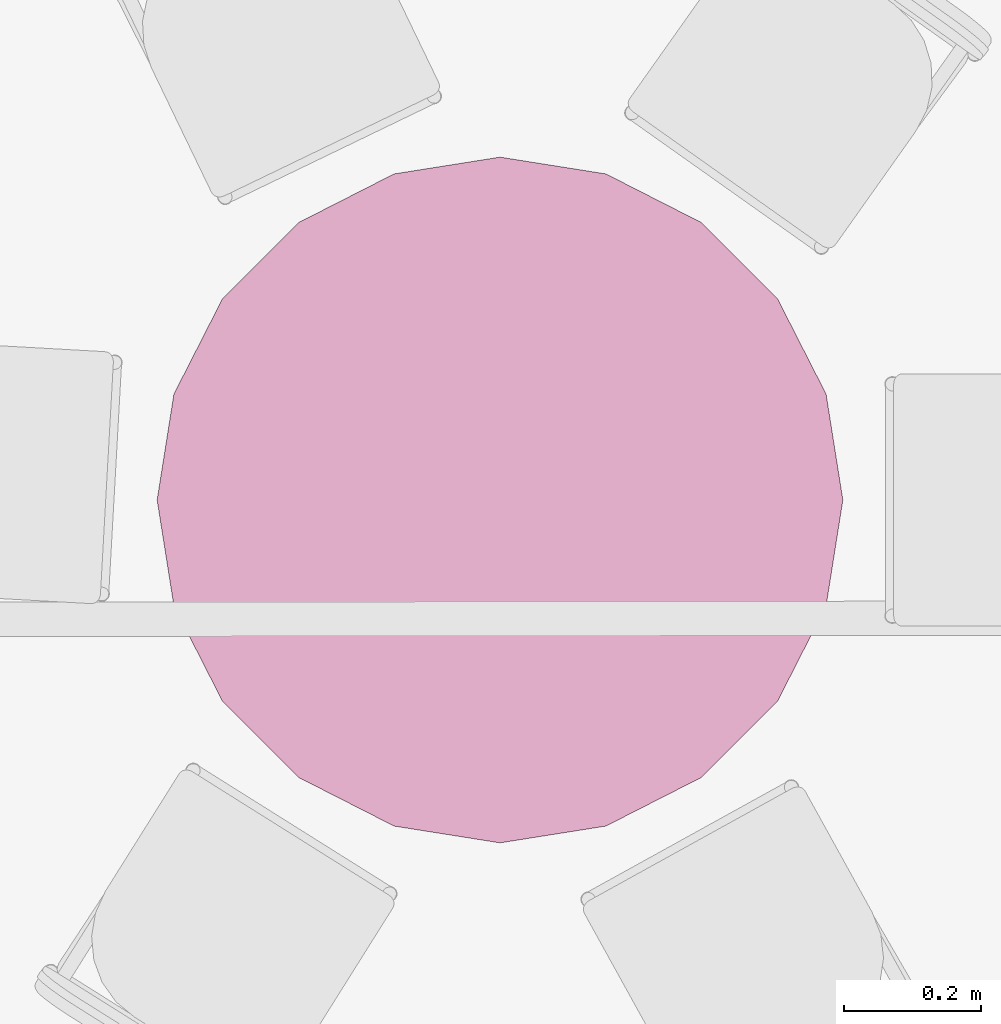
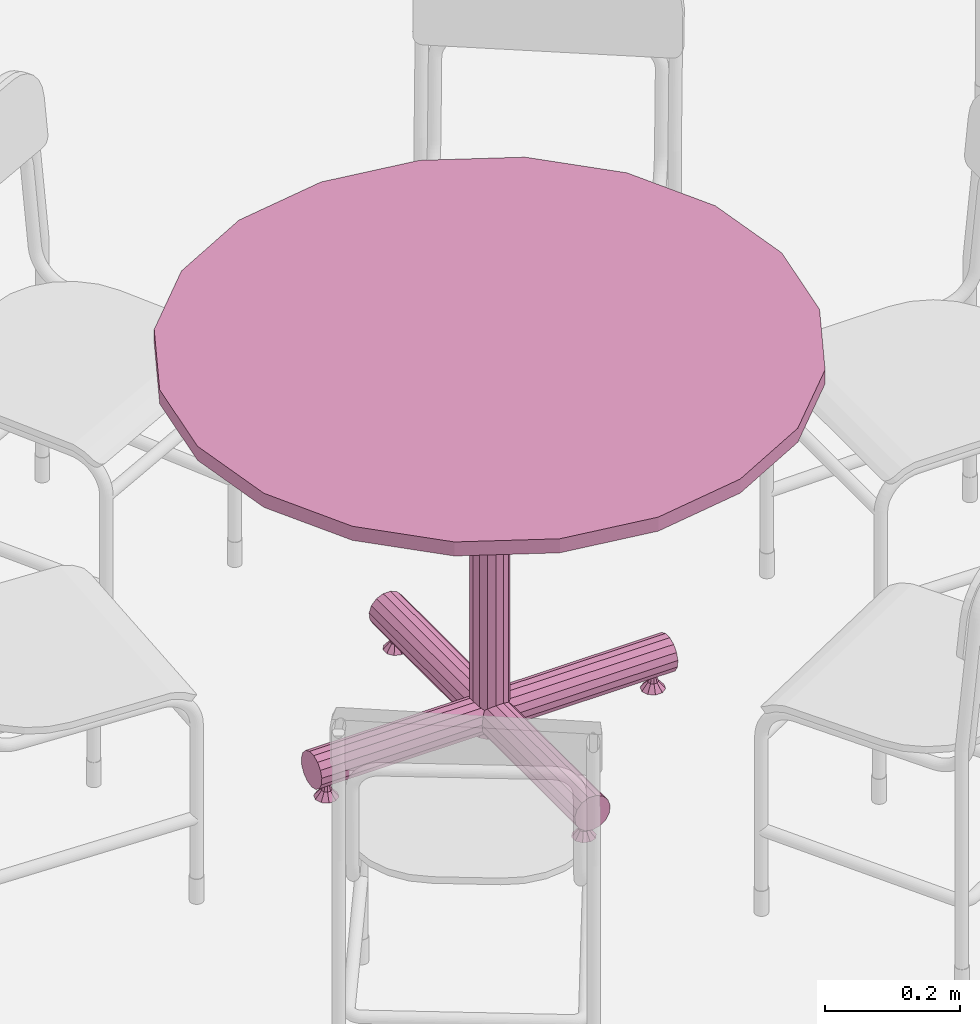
# One storey, part 273 of 301: 1 furnishing.
"""IFC2X3 building model written with IfcOpenShell, lengths in millimetres."""

from ifc_helpers import new_model, entity, si_unit, converted_unit, derived_unit, money_unit, direction, frame, origin_with_axes, place, context, subcontext, project, spatial, open_shell, faceted_brep, surface_model, source, transform, mapped, type_object, element, save


model = new_model("IFC2X3")

# Units and contexts
model_context = context("Model", 3, precision=0.01, world=origin_with_axes(), true_north=direction((0.0, 1.0)))
body_context = subcontext(model_context, "Body", "Model", "MODEL_VIEW")
ifc_project = project(units=[si_unit("LENGTHUNIT", "METRE", prefix="MILLI"), si_unit("AREAUNIT", "SQUARE_METRE"), si_unit("VOLUMEUNIT", "CUBIC_METRE"), converted_unit("PLANEANGLEUNIT", "DEGREE", entity("IfcPlaneAngleMeasure", 0.0174532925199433), si_unit("PLANEANGLEUNIT", "RADIAN"), dimensions=[0, 0, 0, 0, 0, 0, 0]), money_unit("EUR"), converted_unit("TIMEUNIT", "Year", entity("IfcTimeMeasure", 31557600.0), si_unit("TIMEUNIT", "SECOND"), dimensions=[0, 0, 1, 0, 0, 0, 0]), si_unit("MASSUNIT", "GRAM", prefix="KILO"), si_unit("THERMODYNAMICTEMPERATUREUNIT", "DEGREE_CELSIUS"), si_unit("LUMINOUSINTENSITYUNIT", "LUMEN"), si_unit("ENERGYUNIT", "JOULE", prefix="MEGA"), derived_unit("THERMALCONDUCTANCEUNIT", [(si_unit("POWERUNIT", "WATT"), 1), (si_unit("LENGTHUNIT", "METRE"), -1), (si_unit("THERMODYNAMICTEMPERATUREUNIT", "KELVIN"), -1)]), derived_unit("SPECIFICHEATCAPACITYUNIT", [(si_unit("ENERGYUNIT", "JOULE"), 1), (si_unit("MASSUNIT", "GRAM", prefix="KILO"), -1), (si_unit("THERMODYNAMICTEMPERATUREUNIT", "KELVIN"), -1)]), derived_unit("MASSDENSITYUNIT", [(si_unit("MASSUNIT", "GRAM", prefix="KILO"), 1), (si_unit("VOLUMEUNIT", "CUBIC_METRE"), -1)])], contexts=[model_context])

# Site, building, storey
site_placement = place(None, frame((0.0, 0.0, 8650.0), z_axis=(0.0, 0.0, 1.0), x_axis=(1.0, 0.0, 0.0)))
site = spatial("IfcSite", under=ifc_project, at=site_placement, Name="43301:001:0844", CompositionType="ELEMENT")
building_placement = place(site_placement, origin_with_axes())
building = spatial("IfcBuilding", under=site, at=building_placement, Name="Kuressaare Ametikooli tuulikute mehaanikute õppekorpus", CompositionType="ELEMENT")
storey_placement = place(building_placement, origin_with_axes())
storey = spatial("IfcBuildingStorey", under=building, at=storey_placement, Name="1.korrus", CompositionType="ELEMENT", Elevation=0.0)

# Furnishing
furniture_type = type_object("IfcFurnitureType", Name="Round Table 02 27", AssemblyPlace="NOTDEFINED")
shared_shape = source(origin_with_axes(), body_context, "Body", "SurfaceModel", [
    faceted_brep([(294.8117737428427, -11.19730905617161, 0.0), (298.45, 0.0, 0.0), (287.8666666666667, 0.0, 12.7), (286.2496772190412, -4.976581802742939, 12.7), (285.2867737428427, -18.11762663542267, 0.0), (273.5132262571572, -18.11762663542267, 0.0), (263.9882262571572, -11.19730905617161, 0.0), (260.35, 0.0, 0.0), (263.9882262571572, 11.19730905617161, 0.0), (273.5132262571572, 18.11762663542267, 0.0), (285.2867737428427, 18.11762663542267, 0.0), (294.8117737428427, 11.19730905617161, 0.0), (286.2496772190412, 4.976581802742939, 12.7), (282.0163438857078, 8.052278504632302, 12.7), (276.7836561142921, 8.052278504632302, 12.7), (272.5503227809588, 4.976581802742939, 12.7), (270.9333333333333, 0.0, 12.7), (272.5503227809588, -4.976581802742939, 12.7), (276.7836561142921, -8.052278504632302, 12.7), (282.0163438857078, -8.052278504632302, 12.7)], [[[0, 1, 2, 3]], [[0, 4, 5, 6, 7, 8, 9, 10, 11, 1]], [[1, 11, 12, 2]], [[3, 2, 12, 13, 14, 15, 16, 17, 18, 19]], [[4, 0, 3, 19]], [[5, 4, 19, 18]], [[6, 5, 18, 17]], [[7, 6, 17, 16]], [[8, 7, 16, 15]], [[9, 8, 15, 14]], [[10, 9, 14, 13]], [[11, 10, 13, 12]]]),
    faceted_brep([(286.2496772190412, -4.976581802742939, 12.7), (287.8666666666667, 0.0, 12.7), (284.48, 0.0, 25.4), (283.5098063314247, -2.985949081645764, 25.4), (282.0163438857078, -8.052278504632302, 12.7), (276.7836561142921, -8.052278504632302, 12.7), (272.5503227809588, -4.976581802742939, 12.7), (270.9333333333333, 0.0, 12.7), (272.5503227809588, 4.976581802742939, 12.7), (276.7836561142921, 8.052278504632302, 12.7), (282.0163438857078, 8.052278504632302, 12.7), (286.2496772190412, 4.976581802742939, 12.7), (283.5098063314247, 2.985949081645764, 25.4), (280.9698063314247, 4.831367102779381, 25.4), (277.8301936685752, 4.831367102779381, 25.4), (275.2901936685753, 2.985949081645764, 25.4), (274.32, 0.0, 25.4), (275.2901936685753, -2.985949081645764, 25.4), (277.8301936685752, -4.831367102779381, 25.4), (280.9698063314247, -4.831367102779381, 25.4)], [[[0, 1, 2, 3]], [[0, 4, 5, 6, 7, 8, 9, 10, 11, 1]], [[1, 11, 12, 2]], [[3, 2, 12, 13, 14, 15, 16, 17, 18, 19]], [[4, 0, 3, 19]], [[5, 4, 19, 18]], [[6, 5, 18, 17]], [[7, 6, 17, 16]], [[8, 7, 16, 15]], [[9, 8, 15, 14]], [[10, 9, 14, 13]], [[11, 10, 13, 12]]]),
    faceted_brep([(11.19730905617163, 294.8117737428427, 0.0), (0.0, 298.45, 0.0), (0.0, 287.8666666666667, 12.7), (4.976581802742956, 286.2496772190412, 12.7), (18.11762663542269, 285.2867737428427, 0.0), (18.11762663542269, 273.5132262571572, 0.0), (11.19730905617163, 263.9882262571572, 0.0), (0.0, 260.35, 0.0), (-11.1973090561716, 263.9882262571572, 0.0), (-18.11762663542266, 273.5132262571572, 0.0), (-18.11762663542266, 285.2867737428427, 0.0), (-11.19730905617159, 294.8117737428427, 0.0), (-4.976581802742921, 286.2496772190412, 12.7), (-8.052278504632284, 282.0163438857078, 12.7), (-8.052278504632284, 276.7836561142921, 12.7), (-4.976581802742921, 272.5503227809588, 12.7), (0.0, 270.9333333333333, 12.7), (4.976581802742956, 272.5503227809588, 12.7), (8.052278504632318, 276.7836561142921, 12.7), (8.052278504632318, 282.0163438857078, 12.7)], [[[0, 1, 2, 3]], [[0, 4, 5, 6, 7, 8, 9, 10, 11, 1]], [[1, 11, 12, 2]], [[3, 2, 12, 13, 14, 15, 16, 17, 18, 19]], [[4, 0, 3, 19]], [[5, 4, 19, 18]], [[6, 5, 18, 17]], [[7, 6, 17, 16]], [[8, 7, 16, 15]], [[9, 8, 15, 14]], [[10, 9, 14, 13]], [[11, 10, 13, 12]]]),
    faceted_brep([(4.976581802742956, 286.2496772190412, 12.7), (0.0, 287.8666666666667, 12.7), (0.0, 284.48, 25.4), (2.985949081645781, 283.5098063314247, 25.4), (8.052278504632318, 282.0163438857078, 12.7), (8.052278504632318, 276.7836561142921, 12.7), (4.976581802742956, 272.5503227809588, 12.7), (0.0, 270.9333333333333, 12.7), (-4.976581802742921, 272.5503227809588, 12.7), (-8.052278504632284, 276.7836561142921, 12.7), (-8.052278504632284, 282.0163438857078, 12.7), (-4.976581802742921, 286.2496772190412, 12.7), (-2.985949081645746, 283.5098063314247, 25.4), (-4.831367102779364, 280.9698063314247, 25.4), (-4.831367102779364, 277.8301936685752, 25.4), (-2.985949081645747, 275.2901936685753, 25.4), (0.0, 274.32, 25.4), (2.98594908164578, 275.2901936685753, 25.4), (4.831367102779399, 277.8301936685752, 25.4), (4.831367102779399, 280.9698063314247, 25.4)], [[[0, 1, 2, 3]], [[0, 4, 5, 6, 7, 8, 9, 10, 11, 1]], [[1, 11, 12, 2]], [[3, 2, 12, 13, 14, 15, 16, 17, 18, 19]], [[4, 0, 3, 19]], [[5, 4, 19, 18]], [[6, 5, 18, 17]], [[7, 6, 17, 16]], [[8, 7, 16, 15]], [[9, 8, 15, 14]], [[10, 9, 14, 13]], [[11, 10, 13, 12]]]),
    faceted_brep([(-294.8117737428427, 11.19730905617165, 0.0), (-298.45, 0.0, 0.0), (-287.8666666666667, 0.0, 12.7), (-286.2496772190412, 4.976581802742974, 12.7), (-285.2867737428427, 18.11762663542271, 0.0), (-273.5132262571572, 18.11762663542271, 0.0), (-263.9882262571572, 11.19730905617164, 0.0), (-260.35, 0.0, 0.0), (-263.9882262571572, -11.19730905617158, 0.0), (-273.5132262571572, -18.11762663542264, 0.0), (-285.2867737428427, -18.11762663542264, 0.0), (-294.8117737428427, -11.19730905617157, 0.0), (-286.2496772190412, -4.976581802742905, 12.7), (-282.0163438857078, -8.052278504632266, 12.7), (-276.7836561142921, -8.052278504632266, 12.7), (-272.5503227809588, -4.976581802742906, 12.7), (-270.9333333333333, 0.0, 12.7), (-272.5503227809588, 4.976581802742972, 12.7), (-276.7836561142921, 8.052278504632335, 12.7), (-282.0163438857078, 8.052278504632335, 12.7)], [[[0, 1, 2, 3]], [[0, 4, 5, 6, 7, 8, 9, 10, 11, 1]], [[1, 11, 12, 2]], [[3, 2, 12, 13, 14, 15, 16, 17, 18, 19]], [[4, 0, 3, 19]], [[5, 4, 19, 18]], [[6, 5, 18, 17]], [[7, 6, 17, 16]], [[8, 7, 16, 15]], [[9, 8, 15, 14]], [[10, 9, 14, 13]], [[11, 10, 13, 12]]]),
    faceted_brep([(-286.2496772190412, 4.976581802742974, 12.7), (-287.8666666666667, 0.0, 12.7), (-284.48, 0.0, 25.4), (-283.5098063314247, 2.985949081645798, 25.4), (-282.0163438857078, 8.052278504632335, 12.7), (-276.7836561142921, 8.052278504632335, 12.7), (-272.5503227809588, 4.976581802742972, 12.7), (-270.9333333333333, 0.0, 12.7), (-272.5503227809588, -4.976581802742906, 12.7), (-276.7836561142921, -8.052278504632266, 12.7), (-282.0163438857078, -8.052278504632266, 12.7), (-286.2496772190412, -4.976581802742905, 12.7), (-283.5098063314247, -2.985949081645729, 25.4), (-280.9698063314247, -4.831367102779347, 25.4), (-277.8301936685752, -4.831367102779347, 25.4), (-275.2901936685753, -2.98594908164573, 25.4), (-274.32, 0.0, 25.4), (-275.2901936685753, 2.985949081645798, 25.4), (-277.8301936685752, 4.831367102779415, 25.4), (-280.9698063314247, 4.831367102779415, 25.4)], [[[0, 1, 2, 3]], [[0, 4, 5, 6, 7, 8, 9, 10, 11, 1]], [[1, 11, 12, 2]], [[3, 2, 12, 13, 14, 15, 16, 17, 18, 19]], [[4, 0, 3, 19]], [[5, 4, 19, 18]], [[6, 5, 18, 17]], [[7, 6, 17, 16]], [[8, 7, 16, 15]], [[9, 8, 15, 14]], [[10, 9, 14, 13]], [[11, 10, 13, 12]]]),
    faceted_brep([(-11.19730905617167, -294.8117737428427, 0.0), (0.0, -298.45, 0.0), (0.0, -287.8666666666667, 12.7), (-4.976581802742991, -286.2496772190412, 12.7), (-18.11762663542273, -285.2867737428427, 0.0), (-18.11762663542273, -273.5132262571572, 0.0), (-11.19730905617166, -263.9882262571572, 0.0), (0.0, -260.35, 0.0), (11.19730905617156, -263.9882262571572, 0.0), (18.11762663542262, -273.5132262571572, 0.0), (18.11762663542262, -285.2867737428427, 0.0), (11.19730905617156, -294.8117737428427, 0.0), (4.976581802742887, -286.2496772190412, 12.7), (8.052278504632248, -282.0163438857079, 12.7), (8.052278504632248, -276.7836561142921, 12.7), (4.976581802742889, -272.5503227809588, 12.7), (0.0, -270.9333333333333, 12.7), (-4.976581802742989, -272.5503227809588, 12.7), (-8.052278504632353, -276.7836561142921, 12.7), (-8.052278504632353, -282.0163438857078, 12.7)], [[[0, 1, 2, 3]], [[0, 4, 5, 6, 7, 8, 9, 10, 11, 1]], [[1, 11, 12, 2]], [[3, 2, 12, 13, 14, 15, 16, 17, 18, 19]], [[4, 0, 3, 19]], [[5, 4, 19, 18]], [[6, 5, 18, 17]], [[7, 6, 17, 16]], [[8, 7, 16, 15]], [[9, 8, 15, 14]], [[10, 9, 14, 13]], [[11, 10, 13, 12]]]),
    faceted_brep([(-4.976581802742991, -286.2496772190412, 12.7), (0.0, -287.8666666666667, 12.7), (0.0, -284.48, 25.4), (-2.985949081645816, -283.5098063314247, 25.4), (-8.052278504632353, -282.0163438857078, 12.7), (-8.052278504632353, -276.7836561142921, 12.7), (-4.976581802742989, -272.5503227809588, 12.7), (0.0, -270.9333333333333, 12.7), (4.976581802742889, -272.5503227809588, 12.7), (8.052278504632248, -276.7836561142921, 12.7), (8.052278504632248, -282.0163438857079, 12.7), (4.976581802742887, -286.2496772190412, 12.7), (2.985949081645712, -283.5098063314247, 25.4), (4.83136710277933, -280.9698063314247, 25.4), (4.83136710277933, -277.8301936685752, 25.4), (2.985949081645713, -275.2901936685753, 25.4), (0.0, -274.32, 25.4), (-2.985949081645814, -275.2901936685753, 25.4), (-4.831367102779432, -277.8301936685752, 25.4), (-4.831367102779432, -280.9698063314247, 25.4)], [[[0, 1, 2, 3]], [[0, 4, 5, 6, 7, 8, 9, 10, 11, 1]], [[1, 11, 12, 2]], [[3, 2, 12, 13, 14, 15, 16, 17, 18, 19]], [[4, 0, 3, 19]], [[5, 4, 19, 18]], [[6, 5, 18, 17]], [[7, 6, 17, 16]], [[8, 7, 16, 15]], [[9, 8, 15, 14]], [[10, 9, 14, 13]], [[11, 10, 13, 12]]]),
    surface_model("IfcShellBasedSurfaceModel", [(27.84486554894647, -12.3973328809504, 28.03513445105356), (30.48, 0.0, 25.40000000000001), (304.8, 0.0, 25.40000000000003), (304.8, -12.3973328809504, 28.03513445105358), (27.84486554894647, 12.39733288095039, 28.03513445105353), (304.8, 12.39733288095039, 28.03513445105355), (304.8, 22.65105428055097, 35.48489911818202), (304.8, 28.98820261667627, 46.46116201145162), (304.8, 30.31302737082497, 59.06602756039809), (304.8, 26.39645430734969, 71.12), (304.8, 17.91569448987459, 80.5388379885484), (304.8, 6.337148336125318, 85.6939388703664), (304.8, -6.337148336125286, 85.6939388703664), (304.8, -17.91569448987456, 80.53883798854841), (304.8, -26.39645430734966, 71.12000000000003), (304.8, -30.31302737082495, 59.06602756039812), (304.8, -28.98820261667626, 46.46116201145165), (304.8, -22.65105428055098, 35.48489911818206), (21.34442362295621, -21.3444236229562, 34.53557637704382), (22.65105428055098, -22.65105428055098, 35.48489911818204), (21.34442362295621, 21.34442362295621, 34.5355763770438), (22.65105428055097, 22.65105428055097, 35.48489911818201), (28.98820261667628, 28.98820261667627, 46.4611620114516), (30.31302737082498, 30.31302737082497, 59.06602756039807), (26.39645430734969, 26.39645430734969, 71.11999999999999), (21.1105696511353, 21.1105696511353, 76.99056965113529), (24.65883798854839, 17.91569448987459, 80.53883798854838), (29.81393887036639, 6.337148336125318, 85.69393887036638), (29.8139388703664, -6.337148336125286, 85.69393887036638), (24.65883798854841, -17.91569448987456, 80.53883798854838), (21.1105696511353, -21.1105696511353, 76.99056965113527), (26.39645430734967, -26.39645430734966, 71.12), (30.31302737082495, -30.31302737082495, 59.0660275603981), (28.98820261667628, -28.98820261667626, 46.46116201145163)], [open_shell([[[0, 1, 2, 3]], [[1, 4, 5, 2]], [[3, 2, 5, 6, 7, 8, 9, 10, 11, 12, 13, 14, 15, 16, 17]], [[18, 0, 3, 17, 19]], [[4, 20, 21, 6, 5]], [[22, 7, 6, 21]], [[23, 8, 7, 22]], [[24, 9, 8, 23]], [[25, 26, 10, 9, 24]], [[26, 27, 11, 10]], [[27, 28, 12, 11]], [[28, 29, 13, 12]], [[29, 30, 31, 14, 13]], [[32, 15, 14, 31]], [[33, 16, 15, 32]], [[19, 17, 16, 33]]])]),
    surface_model("IfcShellBasedSurfaceModel", [(12.3973328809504, 27.84486554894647, 28.03513445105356), (0.0, 30.48, 25.40000000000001), (0.0, 304.8, 25.40000000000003), (12.39733288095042, 304.8, 28.03513445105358), (-12.39733288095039, 27.84486554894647, 28.03513445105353), (-12.39733288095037, 304.8, 28.03513445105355), (-22.65105428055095, 304.8, 35.48489911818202), (-28.98820261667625, 304.8, 46.46116201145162), (-30.31302737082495, 304.8, 59.06602756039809), (-26.39645430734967, 304.8, 71.12), (-17.91569448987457, 304.8, 80.5388379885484), (-6.337148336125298, 304.8, 85.6939388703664), (6.337148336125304, 304.8, 85.6939388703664), (17.91569448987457, 304.8, 80.53883798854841), (26.39645430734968, 304.8, 71.12000000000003), (30.31302737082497, 304.8, 59.06602756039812), (28.98820261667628, 304.8, 46.46116201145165), (22.65105428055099, 304.8, 35.48489911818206), (21.3444236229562, 21.34442362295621, 34.53557637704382), (22.65105428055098, 22.65105428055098, 35.48489911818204), (-21.34442362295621, 21.34442362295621, 34.5355763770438), (-22.65105428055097, 22.65105428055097, 35.48489911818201), (-28.98820261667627, 28.98820261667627, 46.4611620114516), (-30.31302737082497, 30.31302737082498, 59.06602756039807), (-26.39645430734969, 26.39645430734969, 71.11999999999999), (-21.1105696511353, 21.1105696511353, 76.99056965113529), (-17.91569448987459, 24.65883798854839, 80.53883798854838), (-6.337148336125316, 29.81393887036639, 85.69393887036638), (6.337148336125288, 29.8139388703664, 85.69393887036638), (17.91569448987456, 24.65883798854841, 80.53883798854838), (21.1105696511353, 21.1105696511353, 76.99056965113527), (26.39645430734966, 26.39645430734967, 71.12), (30.31302737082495, 30.31302737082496, 59.0660275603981), (28.98820261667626, 28.98820261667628, 46.46116201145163)], [open_shell([[[0, 1, 2, 3]], [[1, 4, 5, 2]], [[3, 2, 5, 6, 7, 8, 9, 10, 11, 12, 13, 14, 15, 16, 17]], [[18, 0, 3, 17, 19]], [[4, 20, 21, 6, 5]], [[22, 7, 6, 21]], [[23, 8, 7, 22]], [[24, 9, 8, 23]], [[25, 26, 10, 9, 24]], [[26, 27, 11, 10]], [[27, 28, 12, 11]], [[28, 29, 13, 12]], [[29, 30, 31, 14, 13]], [[32, 15, 14, 31]], [[33, 16, 15, 32]], [[19, 17, 16, 33]]])]),
    surface_model("IfcShellBasedSurfaceModel", [(-27.84486554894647, 12.39733288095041, 28.03513445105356), (-30.48, 0.0, 25.40000000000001), (-304.8, 0.0, 25.40000000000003), (-304.8, 12.39733288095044, 28.03513445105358), (-27.84486554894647, -12.39733288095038, 28.03513445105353), (-304.8, -12.39733288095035, 28.03513445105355), (-304.8, -22.65105428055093, 35.48489911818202), (-304.8, -28.98820261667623, 46.46116201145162), (-304.8, -30.31302737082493, 59.06602756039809), (-304.8, -26.39645430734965, 71.12), (-304.8, -17.91569448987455, 80.5388379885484), (-304.8, -6.337148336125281, 85.6939388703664), (-304.8, 6.337148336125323, 85.6939388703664), (-304.8, 17.9156944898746, 80.53883798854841), (-304.8, 26.3964543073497, 71.12000000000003), (-304.8, 30.31302737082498, 59.06602756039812), (-304.8, 28.9882026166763, 46.46116201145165), (-304.8, 22.65105428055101, 35.48489911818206), (-21.3444236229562, 21.34442362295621, 34.53557637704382), (-22.65105428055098, 22.65105428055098, 35.48489911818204), (-21.34442362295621, -21.3444236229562, 34.5355763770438), (-22.65105428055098, -22.65105428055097, 35.48489911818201), (-28.98820261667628, -28.98820261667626, 46.4611620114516), (-30.31302737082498, -30.31302737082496, 59.06602756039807), (-26.3964543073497, -26.39645430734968, 71.11999999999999), (-21.11056965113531, -21.11056965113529, 76.99056965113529), (-24.65883798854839, -17.91569448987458, 80.53883798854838), (-29.81393887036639, -6.337148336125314, 85.69393887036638), (-29.8139388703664, 6.337148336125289, 85.69393887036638), (-24.65883798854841, 17.91569448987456, 80.53883798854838), (-21.1105696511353, 21.1105696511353, 76.99056965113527), (-26.39645430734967, 26.39645430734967, 71.12), (-30.31302737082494, 30.31302737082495, 59.0660275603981), (-28.98820261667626, 28.98820261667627, 46.46116201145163)], [open_shell([[[0, 1, 2, 3]], [[1, 4, 5, 2]], [[3, 2, 5, 6, 7, 8, 9, 10, 11, 12, 13, 14, 15, 16, 17]], [[18, 0, 3, 17, 19]], [[4, 20, 21, 6, 5]], [[22, 7, 6, 21]], [[23, 8, 7, 22]], [[24, 9, 8, 23]], [[25, 26, 10, 9, 24]], [[26, 27, 11, 10]], [[27, 28, 12, 11]], [[28, 29, 13, 12]], [[29, 30, 31, 14, 13]], [[32, 15, 14, 31]], [[33, 16, 15, 32]], [[19, 17, 16, 33]]])]),
    surface_model("IfcShellBasedSurfaceModel", [(-12.39733288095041, -27.84486554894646, 28.03513445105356), (0.0, -30.48, 25.40000000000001), (0.0, -304.8, 25.40000000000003), (-12.39733288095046, -304.8, 28.03513445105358), (12.39733288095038, -27.84486554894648, 28.03513445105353), (12.39733288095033, -304.8, 28.03513445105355), (22.65105428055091, -304.8, 35.48489911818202), (28.98820261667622, -304.8, 46.46116201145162), (30.31302737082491, -304.8, 59.06602756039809), (26.39645430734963, -304.8, 71.12), (17.91569448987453, -304.8, 80.5388379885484), (6.337148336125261, -304.8, 85.6939388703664), (-6.337148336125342, -304.8, 85.6939388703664), (-17.91569448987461, -304.8, 80.53883798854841), (-26.39645430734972, -304.8, 71.12000000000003), (-30.313027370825, -304.8, 59.06602756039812), (-28.98820261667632, -304.8, 46.46116201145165), (-22.65105428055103, -304.8, 35.48489911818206), (-21.34442362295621, -21.3444236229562, 34.53557637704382), (-22.65105428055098, -22.65105428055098, 35.48489911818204), (21.3444236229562, -21.34442362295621, 34.5355763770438), (22.65105428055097, -22.65105428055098, 35.48489911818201), (28.98820261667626, -28.98820261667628, 46.4611620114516), (30.31302737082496, -30.31302737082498, 59.06602756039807), (26.39645430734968, -26.3964543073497, 71.11999999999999), (21.11056965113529, -21.11056965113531, 76.99056965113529), (17.91569448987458, -24.65883798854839, 80.53883798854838), (6.337148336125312, -29.81393887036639, 85.69393887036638), (-6.33714833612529, -29.8139388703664, 85.69393887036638), (-17.91569448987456, -24.65883798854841, 80.53883798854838), (-21.1105696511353, -21.1105696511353, 76.99056965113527), (-26.39645430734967, -26.39645430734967, 71.12), (-30.31302737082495, -30.31302737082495, 59.0660275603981), (-28.98820261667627, -28.98820261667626, 46.46116201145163)], [open_shell([[[0, 1, 2, 3]], [[1, 4, 5, 2]], [[3, 2, 5, 6, 7, 8, 9, 10, 11, 12, 13, 14, 15, 16, 17]], [[18, 0, 3, 17, 19]], [[4, 20, 21, 6, 5]], [[22, 7, 6, 21]], [[23, 8, 7, 22]], [[24, 9, 8, 23]], [[25, 26, 10, 9, 24]], [[26, 27, 11, 10]], [[27, 28, 12, 11]], [[28, 29, 13, 12]], [[29, 30, 31, 14, 13]], [[32, 15, 14, 31]], [[33, 16, 15, 32]], [[19, 17, 16, 33]]])]),
    faceted_brep([(27.84486554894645, -12.3973328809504, 25.4), (20.39510088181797, -22.65105428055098, 25.4), (9.418837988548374, -28.98820261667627, 25.4), (-3.186027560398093, -30.31302737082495, 25.4), (-15.24000000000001, -26.39645430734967, 25.4), (-24.65883798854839, -17.91569448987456, 25.4), (-29.81393887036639, -6.337148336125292, 25.4), (-29.81393887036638, 6.337148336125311, 25.4), (-24.65883798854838, 17.91569448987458, 25.4), (-15.23999999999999, 26.39645430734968, 25.4), (-3.186027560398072, 30.31302737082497, 25.4), (9.418837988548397, 28.98820261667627, 25.4), (20.39510088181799, 22.65105428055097, 25.4), (27.84486554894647, 12.39733288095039, 25.4), (30.48, 0.0, 25.4), (27.84486554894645, -12.3973328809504, 684.6), (20.39510088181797, -22.65105428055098, 684.6), (9.418837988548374, -28.98820261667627, 684.6), (-3.186027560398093, -30.31302737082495, 684.6), (-15.24000000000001, -26.39645430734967, 684.6), (-24.65883798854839, -17.91569448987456, 684.6), (-29.81393887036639, -6.337148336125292, 684.6), (-29.81393887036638, 6.337148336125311, 684.6), (-24.65883798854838, 17.91569448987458, 684.6), (-15.23999999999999, 26.39645430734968, 684.6), (-3.186027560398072, 30.31302737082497, 684.6), (9.418837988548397, 28.98820261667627, 684.6), (20.39510088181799, 22.65105428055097, 684.6), (27.84486554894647, 12.39733288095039, 684.6), (30.48, 0.0, 684.6)], [[[0, 1, 2, 3, 4, 5, 6, 7, 8, 9, 10, 11, 12, 13, 14]], [[1, 0, 15, 16]], [[2, 1, 16, 17]], [[3, 2, 17, 18]], [[4, 3, 18, 19]], [[5, 4, 19, 20]], [[6, 5, 20, 21]], [[7, 6, 21, 22]], [[8, 7, 22, 23]], [[9, 8, 23, 24]], [[10, 9, 24, 25]], [[11, 10, 25, 26]], [[12, 11, 26, 27]], [[13, 12, 27, 28]], [[14, 13, 28, 29]], [[0, 14, 29, 15]], [[15, 29, 28, 27, 26, 25, 24, 23, 22, 21, 20, 19, 18, 17, 16]]]),
    faceted_brep([(475.5282581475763, -154.5084971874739, 684.6), (404.5084971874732, -293.8926261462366, 684.6), (293.8926261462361, -404.5084971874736, 684.6), (154.5084971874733, -475.5282581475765, 684.6), (0.0, -499.9999999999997, 684.6), (-154.5084971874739, -475.5282581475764, 684.6), (-293.8926261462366, -404.5084971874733, 684.6), (-404.5084971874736, -293.8926261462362, 684.6), (-475.5282581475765, -154.5084971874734, 684.6), (-499.9999999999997, 0.0, 684.6), (-475.5282581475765, 154.5084971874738, 684.6), (-404.5084971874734, 293.8926261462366, 684.6), (-293.8926261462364, 404.5084971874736, 684.6), (-154.5084971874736, 475.5282581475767, 684.6), (0.0, 499.9999999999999, 684.6), (154.5084971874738, 475.5282581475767, 684.6), (293.8926261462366, 404.5084971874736, 684.6), (404.5084971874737, 293.8926261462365, 684.6), (475.5282581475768, 154.5084971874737, 684.6), (500.0, 0.0, 684.6), (475.5282581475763, -154.5084971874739, 710.0), (404.5084971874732, -293.8926261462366, 710.0), (293.8926261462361, -404.5084971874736, 710.0), (154.5084971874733, -475.5282581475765, 710.0), (0.0, -499.9999999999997, 710.0), (-154.5084971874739, -475.5282581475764, 710.0), (-293.8926261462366, -404.5084971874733, 710.0), (-404.5084971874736, -293.8926261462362, 710.0), (-475.5282581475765, -154.5084971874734, 710.0), (-499.9999999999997, 0.0, 710.0), (-475.5282581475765, 154.5084971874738, 710.0), (-404.5084971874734, 293.8926261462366, 710.0), (-293.8926261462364, 404.5084971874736, 710.0), (-154.5084971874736, 475.5282581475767, 710.0), (0.0, 499.9999999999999, 710.0), (154.5084971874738, 475.5282581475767, 710.0), (293.8926261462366, 404.5084971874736, 710.0), (404.5084971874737, 293.8926261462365, 710.0), (475.5282581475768, 154.5084971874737, 710.0), (500.0, 0.0, 710.0)], [[[0, 1, 2, 3, 4, 5, 6, 7, 8, 9, 10, 11, 12, 13, 14, 15, 16, 17, 18, 19]], [[1, 0, 20, 21]], [[2, 1, 21, 22]], [[3, 2, 22, 23]], [[4, 3, 23, 24]], [[5, 4, 24, 25]], [[6, 5, 25, 26]], [[7, 6, 26, 27]], [[8, 7, 27, 28]], [[9, 8, 28, 29]], [[10, 9, 29, 30]], [[11, 10, 30, 31]], [[12, 11, 31, 32]], [[13, 12, 32, 33]], [[14, 13, 33, 34]], [[15, 14, 34, 35]], [[16, 15, 35, 36]], [[17, 16, 36, 37]], [[18, 17, 37, 38]], [[19, 18, 38, 39]], [[0, 19, 39, 20]], [[20, 39, 38, 37, 36, 35, 34, 33, 32, 31, 30, 29, 28, 27, 26, 25, 24, 23, 22, 21]]]),
])
furnishing_placement = place(storey_placement, frame((123006.8725404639, 27772.44479562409, 0.0), z_axis=(0.0, 0.0, 1.0), x_axis=(0.0, 1.0, 0.0)))
element("IfcFurnishingElement", 1, at=furnishing_placement, inside=storey, type_object=furniture_type, Name="L1", context=body_context, shape_type="MappedRepresentation", body=[
    mapped(shared_shape, transform((0.0, 0.0, 0.0))),
])

save(model, "model.ifc")
